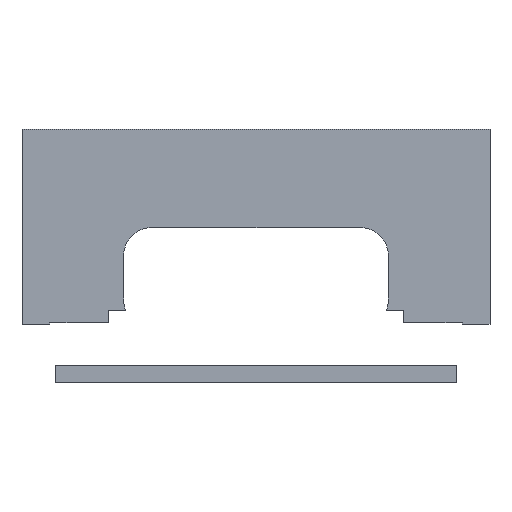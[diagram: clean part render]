
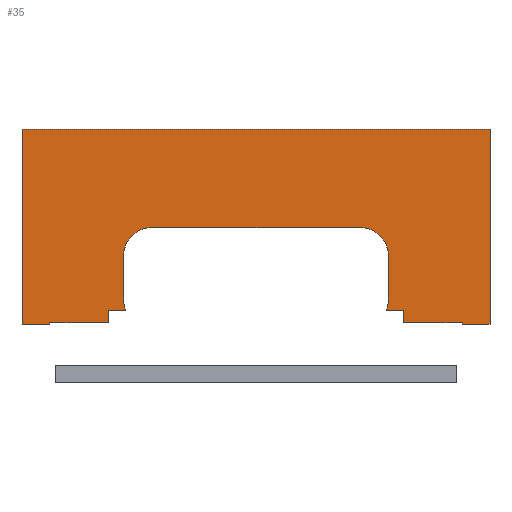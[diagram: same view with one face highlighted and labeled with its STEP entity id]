
A CAD part, left-side view. The second image highlights one B-rep face of the part: STEP entity #35.
In plain terms, the highlighted planar face has unit normal (-1, 0, 0).
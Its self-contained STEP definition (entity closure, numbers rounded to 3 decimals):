
#35 = ADVANCED_FACE('',(#36),#202,.F.);
#36 = FACE_BOUND('',#37,.F.);
#37 = EDGE_LOOP('',(#38,#48,#56,#64,#72,#80,#88,#96,#104,#113,#121,#130,
    #138,#147,#155,#164,#172,#180,#188,#196));
#38 = ORIENTED_EDGE('',*,*,#39,.T.);
#39 = EDGE_CURVE('',#40,#42,#44,.T.);
#40 = VERTEX_POINT('',#41);
#41 = CARTESIAN_POINT('',(69.4,35.136,4.994));
#42 = VERTEX_POINT('',#43);
#43 = CARTESIAN_POINT('',(69.4,35.136,12.));
#44 = LINE('',#45,#46);
#45 = CARTESIAN_POINT('',(69.4,35.136,4.994));
#46 = VECTOR('',#47,1.);
#47 = DIRECTION('',(0.,0.,1.));
#48 = ORIENTED_EDGE('',*,*,#49,.F.);
#49 = EDGE_CURVE('',#50,#42,#52,.T.);
#50 = VERTEX_POINT('',#51);
#51 = CARTESIAN_POINT('',(69.4,18.336,12.));
#52 = LINE('',#53,#54);
#53 = CARTESIAN_POINT('',(69.4,18.336,12.));
#54 = VECTOR('',#55,1.);
#55 = DIRECTION('',(0.,1.,0.));
#56 = ORIENTED_EDGE('',*,*,#57,.F.);
#57 = EDGE_CURVE('',#58,#50,#60,.T.);
#58 = VERTEX_POINT('',#59);
#59 = CARTESIAN_POINT('',(69.4,18.336,4.994));
#60 = LINE('',#61,#62);
#61 = CARTESIAN_POINT('',(69.4,18.336,4.994));
#62 = VECTOR('',#63,1.);
#63 = DIRECTION('',(0.,0.,1.));
#64 = ORIENTED_EDGE('',*,*,#65,.T.);
#65 = EDGE_CURVE('',#58,#66,#68,.T.);
#66 = VERTEX_POINT('',#67);
#67 = CARTESIAN_POINT('',(69.4,19.336,4.994));
#68 = LINE('',#69,#70);
#69 = CARTESIAN_POINT('',(69.4,18.336,4.994));
#70 = VECTOR('',#71,1.);
#71 = DIRECTION('',(0.,1.,0.));
#72 = ORIENTED_EDGE('',*,*,#73,.F.);
#73 = EDGE_CURVE('',#74,#66,#76,.T.);
#74 = VERTEX_POINT('',#75);
#75 = CARTESIAN_POINT('',(69.4,19.336,5.058));
#76 = LINE('',#77,#78);
#77 = CARTESIAN_POINT('',(69.4,19.336,5.01));
#78 = VECTOR('',#79,1.);
#79 = DIRECTION('',(0.,0.,-1.));
#80 = ORIENTED_EDGE('',*,*,#81,.F.);
#81 = EDGE_CURVE('',#82,#74,#84,.T.);
#82 = VERTEX_POINT('',#83);
#83 = CARTESIAN_POINT('',(69.4,21.436,5.058));
#84 = LINE('',#85,#86);
#85 = CARTESIAN_POINT('',(69.4,22.536,5.058));
#86 = VECTOR('',#87,1.);
#87 = DIRECTION('',(0.,-1.,0.));
#88 = ORIENTED_EDGE('',*,*,#89,.T.);
#89 = EDGE_CURVE('',#82,#90,#92,.T.);
#90 = VERTEX_POINT('',#91);
#91 = CARTESIAN_POINT('',(69.4,21.436,5.5));
#92 = LINE('',#93,#94);
#93 = CARTESIAN_POINT('',(69.4,21.436,4.672));
#94 = VECTOR('',#95,1.);
#95 = DIRECTION('',(0.,0.,1.));
#96 = ORIENTED_EDGE('',*,*,#97,.F.);
#97 = EDGE_CURVE('',#98,#90,#100,.T.);
#98 = VERTEX_POINT('',#99);
#99 = CARTESIAN_POINT('',(69.4,22.057,5.5));
#100 = LINE('',#101,#102);
#101 = CARTESIAN_POINT('',(69.4,19.886,5.5));
#102 = VECTOR('',#103,1.);
#103 = DIRECTION('',(0.,-1.,0.));
#104 = ORIENTED_EDGE('',*,*,#105,.F.);
#105 = EDGE_CURVE('',#106,#98,#108,.T.);
#106 = VERTEX_POINT('',#107);
#107 = CARTESIAN_POINT('',(69.4,21.986,5.87));
#108 = CIRCLE('',#109,1.);
#109 = AXIS2_PLACEMENT_3D('',#110,#111,#112);
#110 = CARTESIAN_POINT('',(69.4,22.986,5.87));
#111 = DIRECTION('',(1.,0.,-0.));
#112 = DIRECTION('',(0.,0.,1.));
#113 = ORIENTED_EDGE('',*,*,#114,.T.);
#114 = EDGE_CURVE('',#106,#115,#117,.T.);
#115 = VERTEX_POINT('',#116);
#116 = CARTESIAN_POINT('',(69.4,21.986,7.47));
#117 = LINE('',#118,#119);
#118 = CARTESIAN_POINT('',(69.4,21.986,5.432));
#119 = VECTOR('',#120,1.);
#120 = DIRECTION('',(0.,0.,1.));
#121 = ORIENTED_EDGE('',*,*,#122,.F.);
#122 = EDGE_CURVE('',#123,#115,#125,.T.);
#123 = VERTEX_POINT('',#124);
#124 = CARTESIAN_POINT('',(69.4,22.986,8.47));
#125 = CIRCLE('',#126,1.);
#126 = AXIS2_PLACEMENT_3D('',#127,#128,#129);
#127 = CARTESIAN_POINT('',(69.4,22.986,7.47));
#128 = DIRECTION('',(1.,0.,-0.));
#129 = DIRECTION('',(0.,0.,1.));
#130 = ORIENTED_EDGE('',*,*,#131,.F.);
#131 = EDGE_CURVE('',#132,#123,#134,.T.);
#132 = VERTEX_POINT('',#133);
#133 = CARTESIAN_POINT('',(69.4,30.486,8.47));
#134 = LINE('',#135,#136);
#135 = CARTESIAN_POINT('',(69.4,20.661,8.47));
#136 = VECTOR('',#137,1.);
#137 = DIRECTION('',(0.,-1.,0.));
#138 = ORIENTED_EDGE('',*,*,#139,.F.);
#139 = EDGE_CURVE('',#140,#132,#142,.T.);
#140 = VERTEX_POINT('',#141);
#141 = CARTESIAN_POINT('',(69.4,31.486,7.47));
#142 = CIRCLE('',#143,1.);
#143 = AXIS2_PLACEMENT_3D('',#144,#145,#146);
#144 = CARTESIAN_POINT('',(69.4,30.486,7.47));
#145 = DIRECTION('',(1.,0.,-0.));
#146 = DIRECTION('',(0.,0.,1.));
#147 = ORIENTED_EDGE('',*,*,#148,.F.);
#148 = EDGE_CURVE('',#149,#140,#151,.T.);
#149 = VERTEX_POINT('',#150);
#150 = CARTESIAN_POINT('',(69.4,31.486,5.87));
#151 = LINE('',#152,#153);
#152 = CARTESIAN_POINT('',(69.4,31.486,5.432));
#153 = VECTOR('',#154,1.);
#154 = DIRECTION('',(0.,0.,1.));
#155 = ORIENTED_EDGE('',*,*,#156,.F.);
#156 = EDGE_CURVE('',#157,#149,#159,.T.);
#157 = VERTEX_POINT('',#158);
#158 = CARTESIAN_POINT('',(69.4,31.415,5.5));
#159 = CIRCLE('',#160,1.);
#160 = AXIS2_PLACEMENT_3D('',#161,#162,#163);
#161 = CARTESIAN_POINT('',(69.4,30.486,5.87));
#162 = DIRECTION('',(1.,0.,-0.));
#163 = DIRECTION('',(0.,0.,1.));
#164 = ORIENTED_EDGE('',*,*,#165,.F.);
#165 = EDGE_CURVE('',#166,#157,#168,.T.);
#166 = VERTEX_POINT('',#167);
#167 = CARTESIAN_POINT('',(69.4,32.036,5.5));
#168 = LINE('',#169,#170);
#169 = CARTESIAN_POINT('',(69.4,19.886,5.5));
#170 = VECTOR('',#171,1.);
#171 = DIRECTION('',(0.,-1.,0.));
#172 = ORIENTED_EDGE('',*,*,#173,.F.);
#173 = EDGE_CURVE('',#174,#166,#176,.T.);
#174 = VERTEX_POINT('',#175);
#175 = CARTESIAN_POINT('',(69.4,32.036,5.058));
#176 = LINE('',#177,#178);
#177 = CARTESIAN_POINT('',(69.4,32.036,4.672));
#178 = VECTOR('',#179,1.);
#179 = DIRECTION('',(0.,0.,1.));
#180 = ORIENTED_EDGE('',*,*,#181,.F.);
#181 = EDGE_CURVE('',#182,#174,#184,.T.);
#182 = VERTEX_POINT('',#183);
#183 = CARTESIAN_POINT('',(69.4,34.136,5.058));
#184 = LINE('',#185,#186);
#185 = CARTESIAN_POINT('',(69.4,22.536,5.058));
#186 = VECTOR('',#187,1.);
#187 = DIRECTION('',(0.,-1.,0.));
#188 = ORIENTED_EDGE('',*,*,#189,.F.);
#189 = EDGE_CURVE('',#190,#182,#192,.T.);
#190 = VERTEX_POINT('',#191);
#191 = CARTESIAN_POINT('',(69.4,34.136,4.994));
#192 = LINE('',#193,#194);
#193 = CARTESIAN_POINT('',(69.4,34.136,5.01));
#194 = VECTOR('',#195,1.);
#195 = DIRECTION('',(0.,0.,1.));
#196 = ORIENTED_EDGE('',*,*,#197,.T.);
#197 = EDGE_CURVE('',#190,#40,#198,.T.);
#198 = LINE('',#199,#200);
#199 = CARTESIAN_POINT('',(69.4,18.336,4.994));
#200 = VECTOR('',#201,1.);
#201 = DIRECTION('',(0.,1.,0.));
#202 = PLANE('',#203);
#203 = AXIS2_PLACEMENT_3D('',#204,#205,#206);
#204 = CARTESIAN_POINT('',(69.4,18.336,4.994));
#205 = DIRECTION('',(1.,0.,0.));
#206 = DIRECTION('',(0.,0.,1.));
